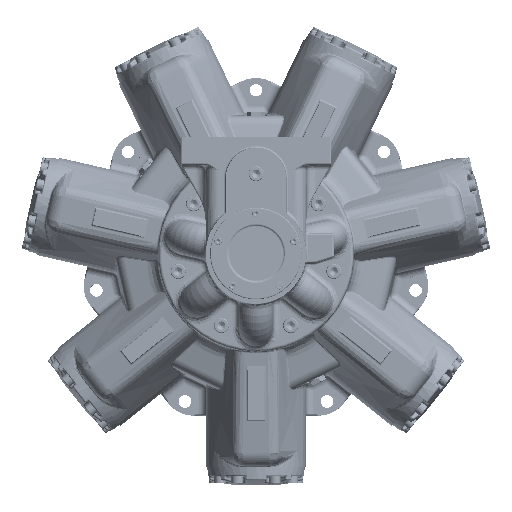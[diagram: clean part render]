
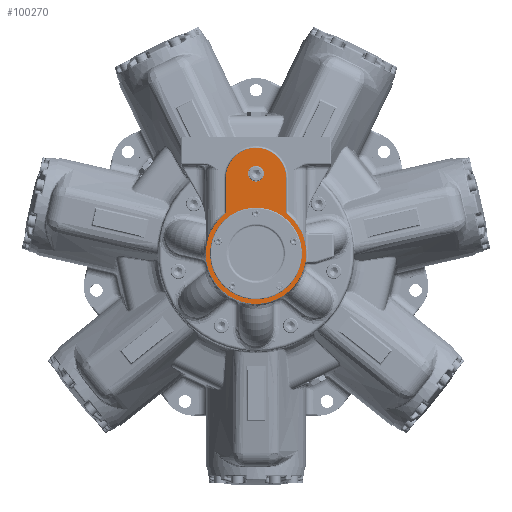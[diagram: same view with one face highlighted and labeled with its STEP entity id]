
A CAD part, top view. The second image highlights one B-rep face of the part: STEP entity #100270.
In plain terms, the highlighted planar face has unit normal (0, 0, 1).
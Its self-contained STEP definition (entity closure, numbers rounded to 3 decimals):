
#1628=FACE_BOUND('',#23911,.T.);
#1629=FACE_BOUND('',#23912,.T.);
#6069=LINE('',#204783,#10674);
#6070=LINE('',#204787,#10675);
#10674=VECTOR('',#121652,10.);
#10675=VECTOR('',#121655,10.);
#13847=PLANE('',#107326);
#17604=FACE_OUTER_BOUND('',#23910,.T.);
#23910=EDGE_LOOP('',(#73560,#73561,#73562,#73563,#73564,#73565));
#23911=EDGE_LOOP('',(#73566));
#23912=EDGE_LOOP('',(#73567));
#29007=CIRCLE('',#107325,73.025);
#29008=CIRCLE('',#107327,48.101);
#29009=CIRCLE('',#107328,80.);
#29010=CIRCLE('',#107329,12.7);
#33416=B_SPLINE_CURVE_WITH_KNOTS('',3,(#204751,#204752,#204753,#204754,
#204755,#204756,#204757,#204758,#204759,#204760,#204761,#204762,#204763,
#204764,#204765,#204766,#204767,#204768,#204769,#204770,#204771,#204772,
#204773,#204774,#204775,#204776,#204777,#204778,#204779,#204780,#204781),
 .UNSPECIFIED.,.F.,.F.,(4,3,3,3,3,3,3,3,3,3,4),(-0.273,-0.243,
-0.213,-0.195,-0.165,-0.134,
-0.117,-0.087,-0.056,-0.026,
0.),.UNSPECIFIED.);
#33417=B_SPLINE_CURVE_WITH_KNOTS('',3,(#204789,#204790,#204791,#204792,
#204793,#204794,#204795,#204796,#204797,#204798,#204799,#204800,#204801,
#204802,#204803,#204804,#204805,#204806,#204807,#204808,#204809,#204810,
#204811,#204812,#204813,#204814,#204815,#204816,#204817,#204818,#204819),
 .UNSPECIFIED.,.F.,.F.,(4,3,3,3,3,3,3,3,3,3,4),(-0.273,-0.243,
-0.213,-0.195,-0.165,-0.134,
-0.117,-0.087,-0.056,-0.026,
0.),.UNSPECIFIED.);
#40280=VERTEX_POINT('',#204745);
#40281=VERTEX_POINT('',#204749);
#40282=VERTEX_POINT('',#204750);
#40283=VERTEX_POINT('',#204782);
#40284=VERTEX_POINT('',#204784);
#40285=VERTEX_POINT('',#204786);
#40286=VERTEX_POINT('',#204788);
#40287=VERTEX_POINT('',#204821);
#51903=EDGE_CURVE('',#40280,#40280,#29007,.T.);
#51905=EDGE_CURVE('',#40281,#40282,#33416,.T.);
#51906=EDGE_CURVE('',#40283,#40281,#6069,.T.);
#51907=EDGE_CURVE('',#40284,#40283,#29008,.T.);
#51908=EDGE_CURVE('',#40285,#40284,#6070,.T.);
#51909=EDGE_CURVE('',#40286,#40285,#33417,.T.);
#51910=EDGE_CURVE('',#40282,#40286,#29009,.T.);
#51911=EDGE_CURVE('',#40287,#40287,#29010,.T.);
#73560=ORIENTED_EDGE('',*,*,#51905,.F.);
#73561=ORIENTED_EDGE('',*,*,#51906,.F.);
#73562=ORIENTED_EDGE('',*,*,#51907,.F.);
#73563=ORIENTED_EDGE('',*,*,#51908,.F.);
#73564=ORIENTED_EDGE('',*,*,#51909,.F.);
#73565=ORIENTED_EDGE('',*,*,#51910,.F.);
#73566=ORIENTED_EDGE('',*,*,#51903,.T.);
#73567=ORIENTED_EDGE('',*,*,#51911,.T.);
#100270=ADVANCED_FACE('',(#17604,#1628,#1629),#13847,.F.);
#107325=AXIS2_PLACEMENT_3D('',#204746,#121647,#121648);
#107326=AXIS2_PLACEMENT_3D('',#204748,#121650,#121651);
#107327=AXIS2_PLACEMENT_3D('',#204785,#121653,#121654);
#107328=AXIS2_PLACEMENT_3D('',#204820,#121656,#121657);
#107329=AXIS2_PLACEMENT_3D('',#204822,#121658,#121659);
#121647=DIRECTION('center_axis',(0.,0.,
-1.));
#121648=DIRECTION('ref_axis',(-0.588,-0.809,0.));
#121650=DIRECTION('center_axis',(0.,0.,
-1.));
#121651=DIRECTION('ref_axis',(0.,-1.,0.));
#121652=DIRECTION('',(0.,-1.,0.));
#121653=DIRECTION('center_axis',(0.,0.,
-1.));
#121654=DIRECTION('ref_axis',(1.,0.,0.));
#121655=DIRECTION('',(0.,1.,0.));
#121656=DIRECTION('center_axis',(0.,0.,
-1.));
#121657=DIRECTION('ref_axis',(0.,-1.,0.));
#121658=DIRECTION('center_axis',(0.,0.,
-1.));
#121659=DIRECTION('ref_axis',(-1.,0.,0.));
#204745=CARTESIAN_POINT('',(42.923,59.078,449.706));
#204746=CARTESIAN_POINT('Origin',(0.,0.,
449.706));
#204748=CARTESIAN_POINT('Origin',(0.,-51.657,
449.706));
#204749=CARTESIAN_POINT('',(48.101,65.405,449.706));
#204750=CARTESIAN_POINT('',(49.256,63.039,449.706));
#204751=CARTESIAN_POINT('Ctrl Pts',(48.101,65.405,449.706));
#204752=CARTESIAN_POINT('Ctrl Pts',(48.101,65.306,449.706));
#204753=CARTESIAN_POINT('Ctrl Pts',(48.106,65.207,449.706));
#204754=CARTESIAN_POINT('Ctrl Pts',(48.117,65.108,449.706));
#204755=CARTESIAN_POINT('Ctrl Pts',(48.127,65.008,449.706));
#204756=CARTESIAN_POINT('Ctrl Pts',(48.143,64.908,449.706));
#204757=CARTESIAN_POINT('Ctrl Pts',(48.164,64.809,449.706));
#204758=CARTESIAN_POINT('Ctrl Pts',(48.176,64.751,449.706));
#204759=CARTESIAN_POINT('Ctrl Pts',(48.189,64.694,449.706));
#204760=CARTESIAN_POINT('Ctrl Pts',(48.205,64.638,449.706));
#204761=CARTESIAN_POINT('Ctrl Pts',(48.231,64.54,449.706));
#204762=CARTESIAN_POINT('Ctrl Pts',(48.262,64.443,449.706));
#204763=CARTESIAN_POINT('Ctrl Pts',(48.298,64.349,449.706));
#204764=CARTESIAN_POINT('Ctrl Pts',(48.335,64.254,449.706));
#204765=CARTESIAN_POINT('Ctrl Pts',(48.375,64.16,449.706));
#204766=CARTESIAN_POINT('Ctrl Pts',(48.421,64.069,449.706));
#204767=CARTESIAN_POINT('Ctrl Pts',(48.446,64.019,449.706));
#204768=CARTESIAN_POINT('Ctrl Pts',(48.472,63.969,449.706));
#204769=CARTESIAN_POINT('Ctrl Pts',(48.5,63.921,449.706));
#204770=CARTESIAN_POINT('Ctrl Pts',(48.55,63.832,449.706));
#204771=CARTESIAN_POINT('Ctrl Pts',(48.605,63.745,449.706));
#204772=CARTESIAN_POINT('Ctrl Pts',(48.664,63.662,449.706));
#204773=CARTESIAN_POINT('Ctrl Pts',(48.722,63.579,449.706));
#204774=CARTESIAN_POINT('Ctrl Pts',(48.785,63.5,449.706));
#204775=CARTESIAN_POINT('Ctrl Pts',(48.851,63.423,449.706));
#204776=CARTESIAN_POINT('Ctrl Pts',(48.916,63.349,449.706));
#204777=CARTESIAN_POINT('Ctrl Pts',(48.985,63.277,449.706));
#204778=CARTESIAN_POINT('Ctrl Pts',(49.057,63.21,449.706));
#204779=CARTESIAN_POINT('Ctrl Pts',(49.12,63.15,449.706));
#204780=CARTESIAN_POINT('Ctrl Pts',(49.187,63.093,449.706));
#204781=CARTESIAN_POINT('Ctrl Pts',(49.256,63.039,449.706));
#204782=CARTESIAN_POINT('',(48.101,120.,449.706));
#204783=CARTESIAN_POINT('',(48.101,6.171,449.706));
#204784=CARTESIAN_POINT('',(-48.101,120.,449.706));
#204785=CARTESIAN_POINT('Origin',(0.,120.,449.706));
#204786=CARTESIAN_POINT('',(-48.101,65.405,449.706));
#204787=CARTESIAN_POINT('',(-48.101,34.171,449.706));
#204788=CARTESIAN_POINT('',(-49.256,63.039,449.706));
#204789=CARTESIAN_POINT('Ctrl Pts',(-49.256,63.039,
449.706));
#204790=CARTESIAN_POINT('Ctrl Pts',(-49.178,63.1,
449.706));
#204791=CARTESIAN_POINT('Ctrl Pts',(-49.103,63.165,
449.706));
#204792=CARTESIAN_POINT('Ctrl Pts',(-49.031,63.234,449.706));
#204793=CARTESIAN_POINT('Ctrl Pts',(-48.958,63.304,
449.706));
#204794=CARTESIAN_POINT('Ctrl Pts',(-48.889,63.378,
449.706));
#204795=CARTESIAN_POINT('Ctrl Pts',(-48.824,63.456,
449.706));
#204796=CARTESIAN_POINT('Ctrl Pts',(-48.786,63.5,449.706));
#204797=CARTESIAN_POINT('Ctrl Pts',(-48.749,63.546,
449.706));
#204798=CARTESIAN_POINT('Ctrl Pts',(-48.714,63.593,
449.706));
#204799=CARTESIAN_POINT('Ctrl Pts',(-48.653,63.674,
449.706));
#204800=CARTESIAN_POINT('Ctrl Pts',(-48.596,63.759,
449.706));
#204801=CARTESIAN_POINT('Ctrl Pts',(-48.544,63.845,
449.706));
#204802=CARTESIAN_POINT('Ctrl Pts',(-48.491,63.932,
449.706));
#204803=CARTESIAN_POINT('Ctrl Pts',(-48.443,64.022,
449.706));
#204804=CARTESIAN_POINT('Ctrl Pts',(-48.399,64.114,
449.706));
#204805=CARTESIAN_POINT('Ctrl Pts',(-48.375,64.165,449.706));
#204806=CARTESIAN_POINT('Ctrl Pts',(-48.352,64.216,
449.706));
#204807=CARTESIAN_POINT('Ctrl Pts',(-48.33,64.268,
449.706));
#204808=CARTESIAN_POINT('Ctrl Pts',(-48.291,64.363,449.706));
#204809=CARTESIAN_POINT('Ctrl Pts',(-48.257,64.459,
449.706));
#204810=CARTESIAN_POINT('Ctrl Pts',(-48.228,64.556,
449.706));
#204811=CARTESIAN_POINT('Ctrl Pts',(-48.199,64.654,
449.706));
#204812=CARTESIAN_POINT('Ctrl Pts',(-48.174,64.752,449.706));
#204813=CARTESIAN_POINT('Ctrl Pts',(-48.155,64.851,449.706));
#204814=CARTESIAN_POINT('Ctrl Pts',(-48.136,64.948,449.706));
#204815=CARTESIAN_POINT('Ctrl Pts',(-48.122,65.046,
449.706));
#204816=CARTESIAN_POINT('Ctrl Pts',(-48.113,65.144,
449.706));
#204817=CARTESIAN_POINT('Ctrl Pts',(-48.105,65.231,
449.706));
#204818=CARTESIAN_POINT('Ctrl Pts',(-48.101,65.318,
449.706));
#204819=CARTESIAN_POINT('Ctrl Pts',(-48.101,65.405,
449.706));
#204820=CARTESIAN_POINT('Origin',(0.,0.,
449.706));
#204821=CARTESIAN_POINT('',(12.7,127.,449.706));
#204822=CARTESIAN_POINT('Origin',(0.,127.,449.706));
